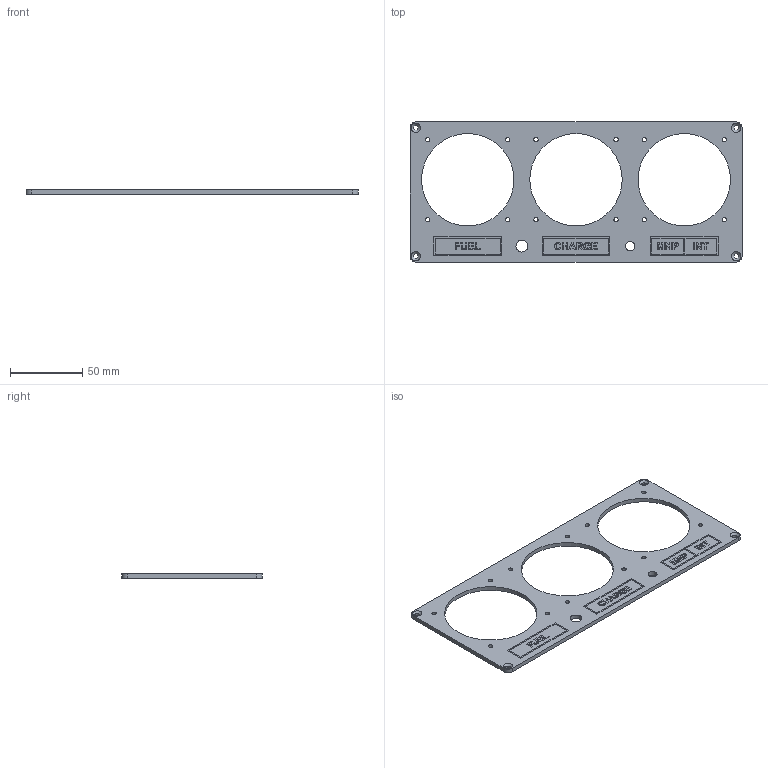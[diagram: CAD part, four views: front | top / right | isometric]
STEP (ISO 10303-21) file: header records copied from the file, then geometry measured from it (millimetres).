
FILE_DESCRIPTION(/* description */ (''),/* implementation_level */ '2;1');
FILE_NAME(/* name */ 'C:/Users/anton/Documents/Kerbal Space Program/Kerbal_Control_Panel/KCP2/CAD/STEPs/ModuleI_v2.step',/* time_stamp */ '2020-11-12T07:14:06-08:00',/* author */ (''),/* organization */ (''),/* preprocessor_version */ 'ST-DEVELOPER v18.1',/* originating_system */ 'Autodesk Translation Framework v9.3.0.1241',/* authorisation */ '');
FILE_SCHEMA (('AUTOMOTIVE_DESIGN { 1 0 10303 214 3 1 1 }'));
Length unit declared in the file: millimetre
Products named in the file (1): I-Plate
Bounding box: 230 x 97 x 3.02 mm (x, y, z)
Volume: 37286 mm3; surface area: 32890.5 mm2
Topology: 4 solids, 4 shells, 310 faces, 833 edges, 554 vertices
Faces by surface type: plane 204, bspline 77, cylinder 25, cone 4
Full cylindrical faces by diameter (mm): 3 x12, 3.4 x4, 6.25 x1, 8.25 x1, 64 x3
Entity records: 10619 total; most frequent: CARTESIAN_POINT 3158, ORIENTED_EDGE 1666, DIRECTION 1201, EDGE_CURVE 833, LINE 625, VECTOR 625, VERTEX_POINT 554, EDGE_LOOP 375
